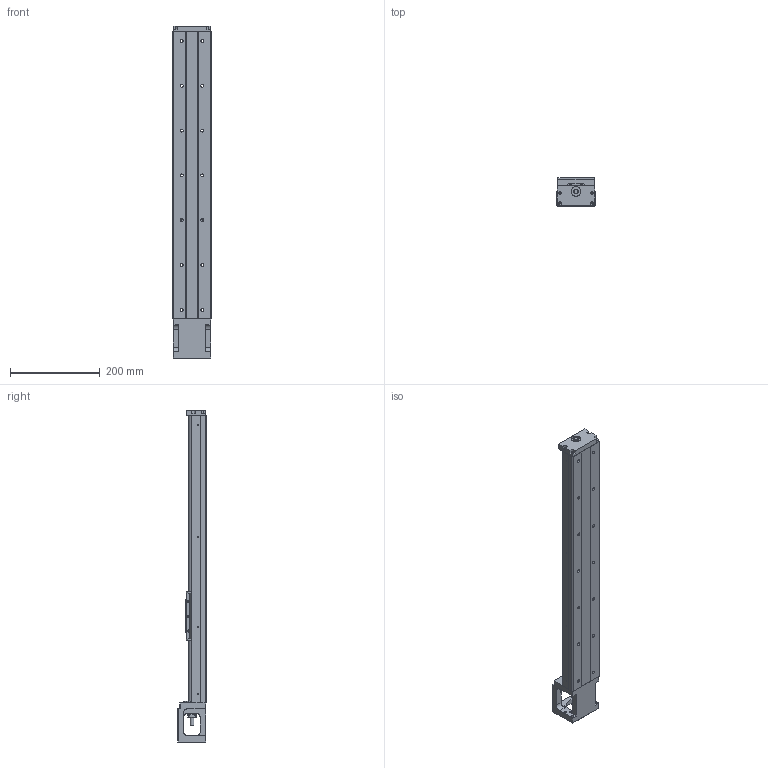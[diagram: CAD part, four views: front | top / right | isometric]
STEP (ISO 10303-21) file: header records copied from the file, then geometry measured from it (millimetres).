
FILE_DESCRIPTION(/* description */ (''),/* implementation_level */ '2;1');
FILE_NAME(/* name */ '46L-640low.stp',/* time_stamp */ '2018-02-12T11:34:34+08:00',/* author */ (''),/* organization */ (''),/* preprocessor_version */ 'ST-DEVELOPER v11',/* originating_system */ 'SIEMENS UGS NX 6.0',/* authorisation */ '');
FILE_SCHEMA (('AUTOMOTIVE_DESIGN { 1 0 10303 214 1 1 1 1 }'));
Length unit declared in the file: millimetre
Products named in the file (1): 3.069
Bounding box: 86 x 64 x 740 mm (x, y, z)
Volume: 1502345.5 mm3; surface area: 326273.6 mm2
Topology: 5 solids, 13 shells, 647 faces, 1708 edges, 1117 vertices
Faces by surface type: plane 288, cylinder 237, cone 61, bspline 53, torus 8
Full cylindrical faces by diameter (mm): 2.11 x4, 2.15 x8, 2.42 x8, 3 x6, 3.2 x4, 3.3 x6, 3.4 x8, 4.2 x4, 4.5 x8, 5 x10, 6 x8, 6.35 x2, 6.6 x14, 8 x1, 9.6 x1, 10 x3, 11 x14, 12 x1, 14.95 x2, 15 x1, 16 x2, 22 x3, 27.5 x1, 44 x1, 50 x1
Entity records: 32240 total; most frequent: CARTESIAN_POINT 13071, ORIENTED_EDGE 2922, DIRECTION 2805, EDGE_CURVE 1461, VERTEX_POINT 1044, AXIS2_PLACEMENT_3D 1044, EDGE_LOOP 915, LINE 717
